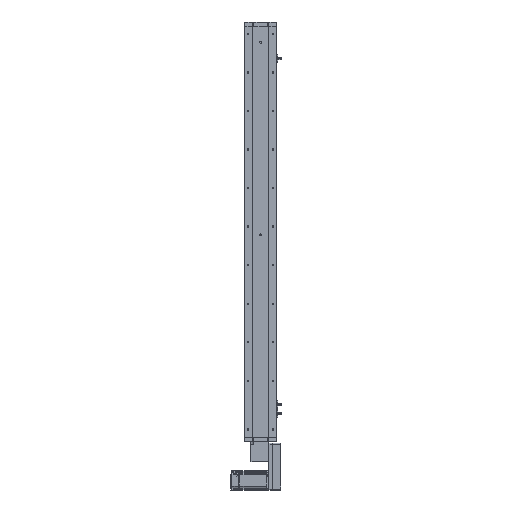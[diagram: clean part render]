
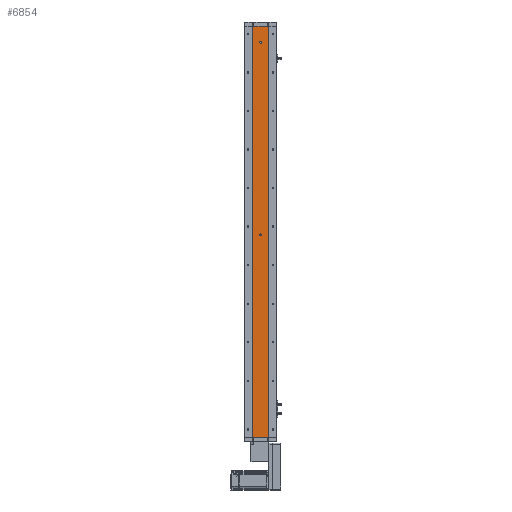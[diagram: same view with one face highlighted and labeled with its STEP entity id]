
A CAD part, left-side view. The second image highlights one B-rep face of the part: STEP entity #6854.
In plain terms, the highlighted planar face has unit normal (-1, 0, 0).
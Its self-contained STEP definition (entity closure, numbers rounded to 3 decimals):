
#1128 = CARTESIAN_POINT ( 'NONE',  ( -18.926, 0., 630. ) ) ;
#2027 = ORIENTED_EDGE ( 'NONE', *, *, #38771, .F. ) ;
#3850 = CARTESIAN_POINT ( 'NONE',  ( -18.926, 24.785, 1280. ) ) ;
#5293 = VECTOR ( 'NONE', #41687, 1000. ) ;
#6013 = CARTESIAN_POINT ( 'NONE',  ( -18.926, 24.785, 1280. ) ) ;
#6509 = DIRECTION ( 'NONE',  ( 0., 0., 1. ) ) ;
#6854 = ADVANCED_FACE ( 'NONE', ( #56559, #13474, #69238 ), #54465, .F. ) ;
#6903 = LINE ( 'NONE', #55135, #35651 ) ;
#7538 = CARTESIAN_POINT ( 'NONE',  ( -18.926, 24.785, 0. ) ) ;
#9855 = DIRECTION ( 'NONE',  ( -1., 0., 0. ) ) ;
#10366 = ORIENTED_EDGE ( 'NONE', *, *, #43778, .T. ) ;
#11096 = VERTEX_POINT ( 'NONE', #30841 ) ;
#11512 = DIRECTION ( 'NONE',  ( 0., 0., -1. ) ) ;
#13474 = FACE_BOUND ( 'NONE', #58470, .T. ) ;
#13624 = AXIS2_PLACEMENT_3D ( 'NONE', #59278, #26943, #64700 ) ;
#15542 = EDGE_CURVE ( 'NONE', #59393, #49727, #19720, .T. ) ;
#16692 = DIRECTION ( 'NONE',  ( 0., 0., -1. ) ) ;
#16833 = AXIS2_PLACEMENT_3D ( 'NONE', #42221, #9855, #47636 ) ;
#17390 = CARTESIAN_POINT ( 'NONE',  ( -18.926, 0., 1227. ) ) ;
#17521 = CARTESIAN_POINT ( 'NONE',  ( -18.926, 24.785, 1280. ) ) ;
#19331 = ORIENTED_EDGE ( 'NONE', *, *, #45512, .F. ) ;
#19377 = AXIS2_PLACEMENT_3D ( 'NONE', #6013, #43890, #11512 ) ;
#19720 = LINE ( 'NONE', #3850, #5293 ) ;
#22812 = DIRECTION ( 'NONE',  ( 0., -1., 0. ) ) ;
#26943 = DIRECTION ( 'NONE',  ( -1., 0., 0. ) ) ;
#27648 = DIRECTION ( 'NONE',  ( -1., 0., 0. ) ) ;
#27721 = AXIS2_PLACEMENT_3D ( 'NONE', #59938, #27648, #65400 ) ;
#29103 = VERTEX_POINT ( 'NONE', #63515 ) ;
#29218 = EDGE_LOOP ( 'NONE', ( #10366, #40450, #39425, #36217 ) ) ;
#30841 = CARTESIAN_POINT ( 'NONE',  ( -18.926, 0., 1233. ) ) ;
#32200 = DIRECTION ( 'NONE',  ( 0., 0., -1. ) ) ;
#32224 = CARTESIAN_POINT ( 'NONE',  ( -18.926, 0., 627. ) ) ;
#33417 = CARTESIAN_POINT ( 'NONE',  ( -18.926, -24.785, 1280. ) ) ;
#35651 = VECTOR ( 'NONE', #22812, 1000. ) ;
#35729 = ORIENTED_EDGE ( 'NONE', *, *, #50574, .F. ) ;
#36217 = ORIENTED_EDGE ( 'NONE', *, *, #41633, .T. ) ;
#36365 = VERTEX_POINT ( 'NONE', #55191 ) ;
#36951 = CIRCLE ( 'NONE', #13624, 3. ) ;
#38595 = VECTOR ( 'NONE', #32200, 1000. ) ;
#38771 = EDGE_CURVE ( 'NONE', #66663, #29103, #56246, .T. ) ;
#38903 = DIRECTION ( 'NONE',  ( -1., 0., 0. ) ) ;
#39205 = LINE ( 'NONE', #33417, #51891 ) ;
#39405 = CIRCLE ( 'NONE', #16833, 3. ) ;
#39425 = ORIENTED_EDGE ( 'NONE', *, *, #15542, .F. ) ;
#40450 = ORIENTED_EDGE ( 'NONE', *, *, #51232, .F. ) ;
#41633 = EDGE_CURVE ( 'NONE', #59393, #57929, #67316, .T. ) ;
#41687 = DIRECTION ( 'NONE',  ( 0., -1., 0. ) ) ;
#41961 = EDGE_LOOP ( 'NONE', ( #57052, #2027 ) ) ;
#42221 = CARTESIAN_POINT ( 'NONE',  ( -18.926, 0., 1230. ) ) ;
#43778 = EDGE_CURVE ( 'NONE', #57929, #36365, #6903, .T. ) ;
#43890 = DIRECTION ( 'NONE',  ( 1., 0., 0. ) ) ;
#44984 = EDGE_CURVE ( 'NONE', #29103, #66663, #36951, .T. ) ;
#45512 = EDGE_CURVE ( 'NONE', #53655, #11096, #39405, .T. ) ;
#47636 = DIRECTION ( 'NONE',  ( 0., 0., 1. ) ) ;
#49727 = VERTEX_POINT ( 'NONE', #64432 ) ;
#50574 = EDGE_CURVE ( 'NONE', #11096, #53655, #58756, .T. ) ;
#51232 = EDGE_CURVE ( 'NONE', #49727, #36365, #39205, .T. ) ;
#51891 = VECTOR ( 'NONE', #16692, 1000. ) ;
#53655 = VERTEX_POINT ( 'NONE', #17390 ) ;
#54465 = PLANE ( 'NONE',  #19377 ) ;
#55135 = CARTESIAN_POINT ( 'NONE',  ( -18.926, 24.785, 0. ) ) ;
#55191 = CARTESIAN_POINT ( 'NONE',  ( -18.926, -24.785, 0. ) ) ;
#56246 = CIRCLE ( 'NONE', #69241, 3. ) ;
#56559 = FACE_BOUND ( 'NONE', #41961, .T. ) ;
#57052 = ORIENTED_EDGE ( 'NONE', *, *, #44984, .F. ) ;
#57929 = VERTEX_POINT ( 'NONE', #7538 ) ;
#58470 = EDGE_LOOP ( 'NONE', ( #35729, #19331 ) ) ;
#58756 = CIRCLE ( 'NONE', #27721, 3. ) ;
#59278 = CARTESIAN_POINT ( 'NONE',  ( -18.926, 0., 630. ) ) ;
#59393 = VERTEX_POINT ( 'NONE', #17521 ) ;
#59938 = CARTESIAN_POINT ( 'NONE',  ( -18.926, 0., 1230. ) ) ;
#63515 = CARTESIAN_POINT ( 'NONE',  ( -18.926, 0., 633. ) ) ;
#64432 = CARTESIAN_POINT ( 'NONE',  ( -18.926, -24.785, 1280. ) ) ;
#64575 = CARTESIAN_POINT ( 'NONE',  ( -18.926, 24.785, 1280. ) ) ;
#64700 = DIRECTION ( 'NONE',  ( 0., 0., 1. ) ) ;
#65400 = DIRECTION ( 'NONE',  ( 0., 0., 1. ) ) ;
#66663 = VERTEX_POINT ( 'NONE', #32224 ) ;
#67316 = LINE ( 'NONE', #64575, #38595 ) ;
#69238 = FACE_OUTER_BOUND ( 'NONE', #29218, .T. ) ;
#69241 = AXIS2_PLACEMENT_3D ( 'NONE', #1128, #38903, #6509 ) ;
